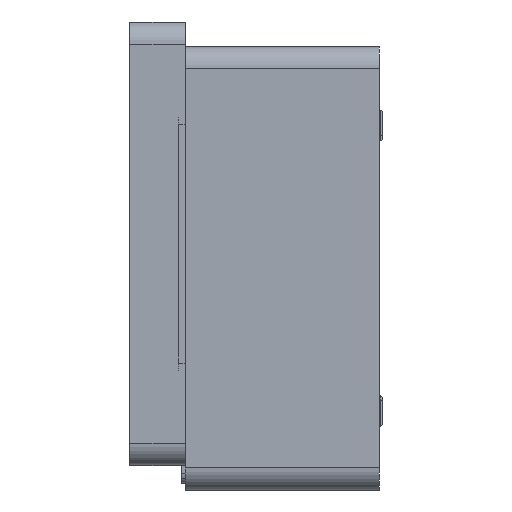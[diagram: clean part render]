
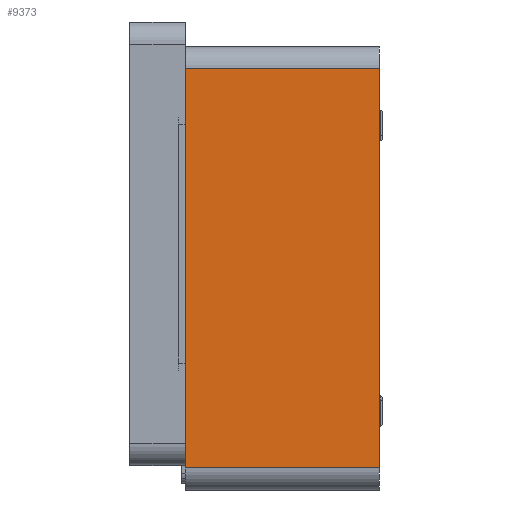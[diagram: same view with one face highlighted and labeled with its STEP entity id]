
A CAD part, left-side view. The second image highlights one B-rep face of the part: STEP entity #9373.
In plain terms, the highlighted planar face has unit normal (-1, 0, 0).
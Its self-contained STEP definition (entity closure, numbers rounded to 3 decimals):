
#1148 = LINE ( 'NONE', #21345, #11930 ) ;
#1187 = VERTEX_POINT ( 'NONE', #23752 ) ;
#1658 = ORIENTED_EDGE ( 'NONE', *, *, #3971, .T. ) ;
#2893 = DIRECTION ( 'NONE',  ( 0., 0., 1. ) ) ;
#3971 = EDGE_CURVE ( 'NONE', #1187, #4200, #10242, .T. ) ;
#4200 = VERTEX_POINT ( 'NONE', #25847 ) ;
#5247 = PLANE ( 'NONE',  #22552 ) ;
#7253 = CARTESIAN_POINT ( 'NONE',  ( -180., 70., -72. ) ) ;
#7535 = DIRECTION ( 'NONE',  ( 0., -1., 0. ) ) ;
#9312 = EDGE_CURVE ( 'NONE', #22864, #17494, #13858, .T. ) ;
#9373 = ADVANCED_FACE ( 'NONE', ( #11570 ), #5247, .F. ) ;
#9421 = CARTESIAN_POINT ( 'NONE',  ( -180., 70., -80. ) ) ;
#10242 = LINE ( 'NONE', #26535, #22412 ) ;
#11478 = CARTESIAN_POINT ( 'NONE',  ( -180., 0., -72. ) ) ;
#11570 = FACE_OUTER_BOUND ( 'NONE', #14259, .T. ) ;
#11930 = VECTOR ( 'NONE', #2893, 1000. ) ;
#12094 = ORIENTED_EDGE ( 'NONE', *, *, #21741, .F. ) ;
#12735 = ORIENTED_EDGE ( 'NONE', *, *, #20333, .T. ) ;
#13858 = LINE ( 'NONE', #21808, #17385 ) ;
#14259 = EDGE_LOOP ( 'NONE', ( #12735, #1658, #12094, #18259 ) ) ;
#17373 = LINE ( 'NONE', #17510, #23506 ) ;
#17385 = VECTOR ( 'NONE', #7535, 1000. ) ;
#17494 = VERTEX_POINT ( 'NONE', #11478 ) ;
#17510 = CARTESIAN_POINT ( 'NONE',  ( -180., 0., -80. ) ) ;
#18259 = ORIENTED_EDGE ( 'NONE', *, *, #9312, .T. ) ;
#19523 = DIRECTION ( 'NONE',  ( 0., 0., 1. ) ) ;
#19918 = DIRECTION ( 'NONE',  ( 1., 0., 0. ) ) ;
#20333 = EDGE_CURVE ( 'NONE', #17494, #1187, #17373, .T. ) ;
#21345 = CARTESIAN_POINT ( 'NONE',  ( -180., 70., -80. ) ) ;
#21741 = EDGE_CURVE ( 'NONE', #22864, #4200, #1148, .T. ) ;
#21808 = CARTESIAN_POINT ( 'NONE',  ( -180., 70., -72. ) ) ;
#22412 = VECTOR ( 'NONE', #26401, 1000. ) ;
#22552 = AXIS2_PLACEMENT_3D ( 'NONE', #9421, #19918, #25710 ) ;
#22864 = VERTEX_POINT ( 'NONE', #7253 ) ;
#23506 = VECTOR ( 'NONE', #19523, 1000. ) ;
#23752 = CARTESIAN_POINT ( 'NONE',  ( -180., 0., 72. ) ) ;
#25710 = DIRECTION ( 'NONE',  ( 0., 0., -1. ) ) ;
#25847 = CARTESIAN_POINT ( 'NONE',  ( -180., 70., 72. ) ) ;
#26401 = DIRECTION ( 'NONE',  ( 0., 1., 0. ) ) ;
#26535 = CARTESIAN_POINT ( 'NONE',  ( -180., 70., 72. ) ) ;
